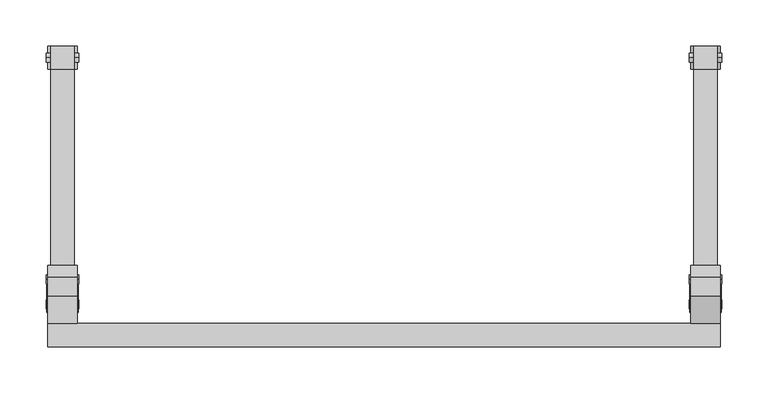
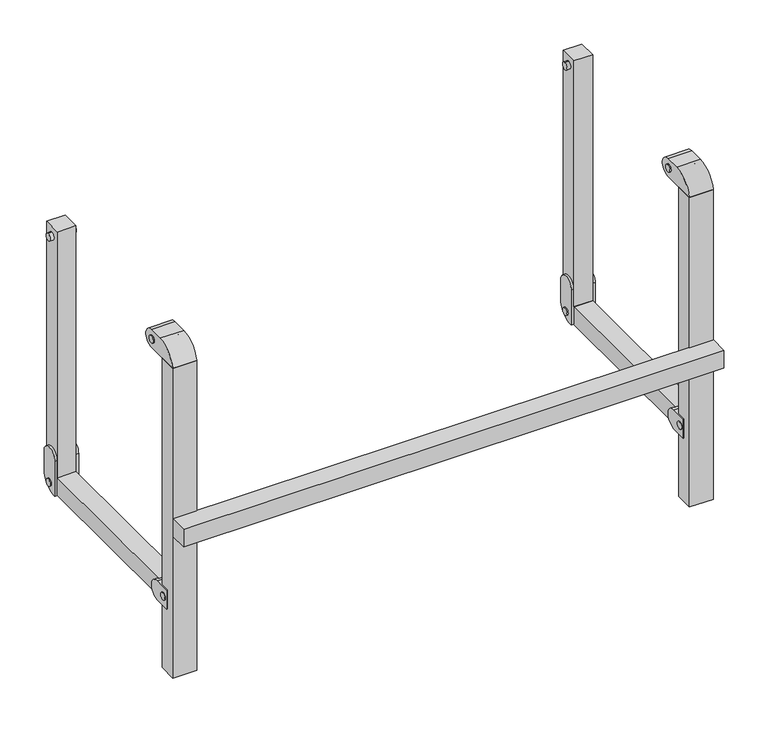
"""IFC4 building model written with IfcOpenShell, lengths in millimetres: proxy geometry, Shower Seat_Metlam_Folding_Support Legs and Handle : 960w x 400d x 480h (ML995_PH)."""

from ifc_helpers import new_model, si_unit, point, frame, frame_2d, origin, place, context, project, spatial, polyline, circle_curve, trimmed, segment, composite_curve, outline, extrude, source, transform, mapped, element, save
from ifc_brep_helpers import plane_surface, cylinder_surface, advanced_brep


def specialty_equipment_5771c5a9(model_context):
    return source(origin(), model_context, "Body", "SolidModel", [
        advanced_brep(
        [(135.1717474, -233.1812972, 448.7603921), (135.1717474, -233.1812972, 458.7603921), (170.1717474, -233.1812972, 448.7603921), (170.1717474, -233.1812972, 458.7603921), (140.1717474, -233.1812972, 448.7603921), (140.1717474, -233.1812972, 458.7603921), (165.1717474, -233.1812972, 458.7603921), (165.1717474, -233.1812972, 448.7603921), (140.1717474, -245.8995044, 466.9886299), (140.1717474, -220.8995044, 466.9886299), (140.1717474, -220.8995044, 117.0617125), (140.1717474, -245.8995044, 117.0617125), (165.1717474, -245.8995044, 466.9886299), (165.1717474, -245.8995044, 117.0617125), (165.1717474, -220.8995044, 117.0617125), (165.1717474, -220.8995044, 466.9886299)],
        [
            (0, 1, circle_curve(frame((135.1717474, -233.1812972, 453.7603921), z_axis=(-1.0, 0.0, 0.0), x_axis=(0.0, 0.0, 1.0)), 5.0)),
            (1, 0, circle_curve(frame((135.1717474, -233.1812972, 453.7603921), z_axis=(-1.0, 0.0, 0.0), x_axis=(0.0, 0.0, 1.0)), 5.0)),
            (2, 3, circle_curve(frame((170.1717474, -233.1812972, 453.7603921), z_axis=(1.0, 0.0, 0.0), x_axis=(0.0, 0.0, 1.0)), 5.0)),
            (3, 2, circle_curve(frame((170.1717474, -233.1812972, 453.7603921), z_axis=(1.0, 0.0, 0.0), x_axis=(0.0, 0.0, 1.0)), 5.0)),
            (0, 4),
            (4, 5, circle_curve(frame((140.1717474, -233.1812972, 453.7603921), z_axis=(-1.0, 0.0, 0.0), x_axis=(0.0, 0.0, 1.0)), 5.0)),
            (5, 1),
            (3, 6),
            (6, 7, circle_curve(frame((165.1717474, -233.1812972, 453.7603921), z_axis=(1.0, 0.0, 0.0), x_axis=(0.0, 0.0, 1.0)), 5.0)),
            (7, 2),
            (5, 4, circle_curve(frame((140.1717474, -233.1812972, 453.7603921), z_axis=(-1.0, 0.0, 0.0), x_axis=(0.0, 0.0, 1.0)), 5.0)),
            (7, 6, circle_curve(frame((165.1717474, -233.1812972, 453.7603921), z_axis=(1.0, 0.0, 0.0), x_axis=(0.0, 0.0, 1.0)), 5.0)),
            (8, 9),
            (9, 10),
            (10, 11),
            (11, 8),
            (12, 13),
            (13, 14),
            (14, 15),
            (15, 12),
            (8, 12),
            (15, 9),
            (14, 10),
            (13, 11),
        ],
        [
            plane_surface(frame((135.1717474, -233.1812972, 458.7603921), z_axis=(-1.0, 0.0, 0.0), x_axis=(0.0, 1.0, 0.0))),
            plane_surface(frame((170.1717474, -233.1812972, 458.7603921), z_axis=(1.0, 0.0, 0.0), x_axis=(0.0, -1.0, 0.0))),
            cylinder_surface(frame((170.1717474, -233.1812972, 453.7603921), z_axis=(-1.0, 0.0, 0.0), x_axis=(0.0, 0.0, 1.0)), 5.0),
            plane_surface(frame((140.1717474, -220.8995044, 466.9886299), z_axis=(-1.0, 0.0, 0.0), x_axis=(0.0, 1.0, 0.0))),
            plane_surface(frame((165.1717474, -220.8995044, 466.9886299), z_axis=(1.0, 0.0, 0.0), x_axis=(0.0, -1.0, 0.0))),
            plane_surface(frame((140.1717474, -245.8995044, 466.9886299), z_axis=(0.0, 0.0, 1.0), x_axis=(1.0, 0.0, 0.0))),
            plane_surface(frame((140.1717474, -220.8995044, 466.9886299), z_axis=(0.0, 1.0, 0.0), x_axis=(1.0, 0.0, 0.0))),
            plane_surface(frame((140.1717474, -220.8995044, 117.0617125), z_axis=(0.0, 0.0, -1.0), x_axis=(1.0, 0.0, 0.0))),
            plane_surface(frame((140.1717474, -245.8995044, 117.0617125), z_axis=(0.0, -1.0, 0.0), x_axis=(1.0, 0.0, 0.0))),
        ],
        [
            (0, [[1, 2]]),
            (1, [[3, 4]]),
            (2, [[-1, 5, 6, 7]]),
            (2, [[-4, 8, 9, 10]]),
            (2, [[-2, -7, 11, -5]]),
            (2, [[-3, -10, 12, -8]]),
            (3, [[13, 14, 15, 16], [-6, -11]]),
            (4, [[17, 18, 19, 20], [-9, -12]]),
            (5, [[-13, 21, -20, 22]]),
            (6, [[-14, -22, -19, 23]]),
            (7, [[-15, -23, -18, 24]]),
            (8, [[-16, -24, -17, -21]]),
        ],
    ),
        advanced_brep(
        [(-524.8282526, -233.1812972, 448.7603921), (-524.8282526, -233.1812972, 458.7603921), (-559.8282526, -233.1812972, 448.7603921), (-559.8282526, -233.1812972, 458.7603921), (-529.8282526, -233.1812972, 458.7603921), (-529.8282526, -233.1812972, 448.7603921), (-554.8282526, -233.1812972, 448.7603921), (-554.8282526, -233.1812972, 458.7603921), (-529.8282526, -245.8995044, 466.9886299), (-529.8282526, -245.8995044, 117.0617125), (-529.8282526, -220.8995044, 117.0617125), (-529.8282526, -220.8995044, 466.9886299), (-554.8282526, -245.8995044, 466.9886299), (-554.8282526, -220.8995044, 466.9886299), (-554.8282526, -220.8995044, 117.0617125), (-554.8282526, -245.8995044, 117.0617125)],
        [
            (0, 1, circle_curve(frame((-524.8282526, -233.1812972, 453.7603921), z_axis=(1.0, 0.0, 0.0), x_axis=(0.0, 0.0, 1.0)), 5.0)),
            (1, 0, circle_curve(frame((-524.8282526, -233.1812972, 453.7603921), z_axis=(1.0, 0.0, 0.0), x_axis=(0.0, 0.0, 1.0)), 5.0)),
            (2, 3, circle_curve(frame((-559.8282526, -233.1812972, 453.7603921), z_axis=(-1.0, 0.0, 0.0), x_axis=(0.0, 0.0, 1.0)), 5.0)),
            (3, 2, circle_curve(frame((-559.8282526, -233.1812972, 453.7603921), z_axis=(-1.0, 0.0, 0.0), x_axis=(0.0, 0.0, 1.0)), 5.0)),
            (1, 4),
            (4, 5, circle_curve(frame((-529.8282526, -233.1812972, 453.7603921), z_axis=(1.0, 0.0, 0.0), x_axis=(0.0, 0.0, 1.0)), 5.0)),
            (5, 0),
            (2, 6),
            (6, 7, circle_curve(frame((-554.8282526, -233.1812972, 453.7603921), z_axis=(-1.0, 0.0, 0.0), x_axis=(0.0, 0.0, 1.0)), 5.0)),
            (7, 3),
            (5, 4, circle_curve(frame((-529.8282526, -233.1812972, 453.7603921), z_axis=(1.0, 0.0, 0.0), x_axis=(0.0, 0.0, 1.0)), 5.0)),
            (7, 6, circle_curve(frame((-554.8282526, -233.1812972, 453.7603921), z_axis=(-1.0, 0.0, 0.0), x_axis=(0.0, 0.0, 1.0)), 5.0)),
            (8, 9),
            (9, 10),
            (10, 11),
            (11, 8),
            (12, 13),
            (13, 14),
            (14, 15),
            (15, 12),
            (11, 13),
            (12, 8),
            (10, 14),
            (9, 15),
        ],
        [
            plane_surface(frame((-524.8282526, -233.1812972, 458.7603921), z_axis=(1.0, 0.0, 0.0), x_axis=(0.0, -1.0, 0.0))),
            plane_surface(frame((-559.8282526, -233.1812972, 458.7603921), z_axis=(-1.0, 0.0, 0.0), x_axis=(0.0, 1.0, 0.0))),
            cylinder_surface(frame((-559.8282526, -233.1812972, 453.7603921), z_axis=(1.0, 0.0, 0.0), x_axis=(0.0, 0.0, 1.0)), 5.0),
            plane_surface(frame((-529.8282526, -245.8995044, 466.9886299), z_axis=(1.0, 0.0, 0.0), x_axis=(0.0, 0.0, -1.0))),
            plane_surface(frame((-554.8282526, -245.8995044, 466.9886299), z_axis=(-1.0, 0.0, 0.0), x_axis=(0.0, 0.0, 1.0))),
            plane_surface(frame((-529.8282526, -220.8995044, 466.9886299), z_axis=(0.0, 0.0, 1.0), x_axis=(-1.0, 0.0, 0.0))),
            plane_surface(frame((-529.8282526, -220.8995044, 117.0617125), z_axis=(0.0, 1.0, 0.0), x_axis=(-1.0, 0.0, 0.0))),
            plane_surface(frame((-529.8282526, -245.8995044, 117.0617125), z_axis=(0.0, 0.0, -1.0), x_axis=(-1.0, 0.0, 0.0))),
            plane_surface(frame((-529.8282526, -245.8995044, 466.9886299), z_axis=(0.0, -1.0, 0.0), x_axis=(-1.0, 0.0, 0.0))),
        ],
        [
            (0, [[1, 2]]),
            (1, [[3, 4]]),
            (2, [[-2, 5, 6, 7]]),
            (2, [[-3, 8, 9, 10]]),
            (2, [[-1, -7, 11, -5]]),
            (2, [[-4, -10, 12, -8]]),
            (3, [[13, 14, 15, 16], [-6, -11]]),
            (4, [[17, 18, 19, 20], [-9, -12]]),
            (5, [[-16, 21, -17, 22]]),
            (6, [[-15, 23, -18, -21]]),
            (7, [[-14, 24, -19, -23]]),
            (8, [[-13, -22, -20, -24]]),
        ],
    ),
        advanced_brep(
        [(136.6717474, -220.8995044, 115.767673), (136.6717474, -244.6671774, 92.0), (136.6717474, -245.8995044, 92.0), (136.6717474, -245.8995044, 141.7921181), (136.6717474, -220.8995044, 141.7921181), (136.6717474, -233.1812972, 109.5308562), (136.6717474, -233.1812972, 99.5308562), (168.6717474, -220.8995044, 115.767673), (168.6717474, -220.8995044, 141.7921181), (168.6717474, -245.8995044, 141.7921181), (168.6717474, -245.8995044, 92.0), (168.6717474, -244.6671774, 92.0), (168.6717474, -233.1812972, 99.5308562), (168.6717474, -233.1812972, 109.5308562), (135.1717474, -233.1812972, 99.5308562), (135.1717474, -233.1812972, 109.5308562), (170.1717474, -233.1812972, 99.5308562), (170.1717474, -233.1812972, 109.5308562)],
        [
            (0, 1, circle_curve(frame((136.6717474, -244.6671774, 115.767673), z_axis=(-1.0, 0.0, 0.0), x_axis=(0.0, 0.0, 1.0)), 23.767673)),
            (1, 2),
            (2, 3),
            (3, 4, circle_curve(frame((136.6717474, -233.3995044, 141.7921181), z_axis=(-1.0, 0.0, 0.0), x_axis=(0.0, 0.0, 1.0)), 12.5)),
            (4, 0),
            (5, 6, circle_curve(frame((136.6717474, -233.1812972, 104.5308562), z_axis=(1.0, 0.0, 0.0), x_axis=(0.0, 0.0, 1.0)), 5.0)),
            (6, 5, circle_curve(frame((136.6717474, -233.1812972, 104.5308562), z_axis=(1.0, 0.0, 0.0), x_axis=(0.0, 0.0, 1.0)), 5.0)),
            (7, 8),
            (8, 9, circle_curve(frame((168.6717474, -233.3995044, 141.7921181), z_axis=(1.0, 0.0, 0.0), x_axis=(0.0, 0.0, 1.0)), 12.5)),
            (9, 10),
            (10, 11),
            (11, 7, circle_curve(frame((168.6717474, -244.6671774, 115.767673), z_axis=(1.0, 0.0, 0.0), x_axis=(0.0, 0.0, 1.0)), 23.767673)),
            (12, 13, circle_curve(frame((168.6717474, -233.1812972, 104.5308562), z_axis=(-1.0, 0.0, 0.0), x_axis=(0.0, 0.0, 1.0)), 5.0)),
            (13, 12, circle_curve(frame((168.6717474, -233.1812972, 104.5308562), z_axis=(-1.0, 0.0, 0.0), x_axis=(0.0, 0.0, 1.0)), 5.0)),
            (0, 7),
            (11, 1),
            (10, 2),
            (9, 3),
            (8, 4),
            (14, 15, circle_curve(frame((135.1717474, -233.1812972, 104.5308562), z_axis=(-1.0, 0.0, 0.0), x_axis=(0.0, 0.0, 1.0)), 5.0)),
            (15, 14, circle_curve(frame((135.1717474, -233.1812972, 104.5308562), z_axis=(-1.0, 0.0, 0.0), x_axis=(0.0, 0.0, 1.0)), 5.0)),
            (16, 17, circle_curve(frame((170.1717474, -233.1812972, 104.5308562), z_axis=(1.0, 0.0, 0.0), x_axis=(0.0, 0.0, 1.0)), 5.0)),
            (17, 16, circle_curve(frame((170.1717474, -233.1812972, 104.5308562), z_axis=(1.0, 0.0, 0.0), x_axis=(0.0, 0.0, 1.0)), 5.0)),
            (14, 6),
            (5, 15),
            (17, 13),
            (12, 16),
        ],
        [
            plane_surface(frame((136.6717474, -244.6671774, 139.535346), z_axis=(-1.0, 0.0, 0.0), x_axis=(0.0, 1.0, 0.0))),
            plane_surface(frame((168.6717474, -244.6671774, 139.535346), z_axis=(1.0, 0.0, 0.0), x_axis=(0.0, -1.0, 0.0))),
            cylinder_surface(frame((168.6717474, -244.6671774, 115.767673), z_axis=(-1.0, 0.0, 0.0), x_axis=(0.0, 0.0, 1.0)), 23.767673),
            plane_surface(frame((136.6717474, -244.6671774, 92.0), z_axis=(0.0, 0.0, -1.0), x_axis=(1.0, 0.0, 0.0))),
            plane_surface(frame((136.6717474, -245.8995044, 92.0), z_axis=(0.0, -1.0, 0.0), x_axis=(1.0, 0.0, 0.0))),
            cylinder_surface(frame((168.6717474, -233.3995044, 141.7921181), z_axis=(-1.0, 0.0, 0.0), x_axis=(0.0, 0.0, 1.0)), 12.5),
            plane_surface(frame((136.6717474, -220.8995044, 141.7921181), z_axis=(0.0, 1.0, -1.7515047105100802e-12), x_axis=(1.0, 0.0, 0.0))),
            plane_surface(frame((135.1717474, -233.1812972, 109.5308562), z_axis=(-1.0, 0.0, 0.0), x_axis=(0.0, 1.0, 0.0))),
            plane_surface(frame((170.1717474, -233.1812972, 109.5308562), z_axis=(1.0, 0.0, 0.0), x_axis=(0.0, -1.0, 0.0))),
            cylinder_surface(frame((170.1717474, -233.1812972, 104.5308562), z_axis=(-1.0, 0.0, 0.0), x_axis=(0.0, 0.0, 1.0)), 5.0),
        ],
        [
            (0, [[1, 2, 3, 4, 5], [6, 7]]),
            (1, [[8, 9, 10, 11, 12], [13, 14]]),
            (2, [[-1, 15, -12, 16]]),
            (3, [[-2, -16, -11, 17]]),
            (4, [[-3, -17, -10, 18]]),
            (5, [[-4, -18, -9, 19]]),
            (6, [[-5, -19, -8, -15]]),
            (7, [[20, 21]]),
            (8, [[22, 23]]),
            (9, [[-20, 24, -6, 25]]),
            (9, [[-23, 26, -13, 27]]),
            (9, [[-21, -25, -7, -24]]),
            (9, [[-22, -27, -14, -26]]),
        ],
    ),
        advanced_brep(
        [(-526.3282526, -520.9976949, 440.5321543), (-526.3282526, -495.9976949, 440.5321543), (-558.3282526, -495.9976949, 440.5321543), (-558.3282526, -520.9976949, 440.5321543), (-526.3282526, -520.9976949, 0.0), (-558.3282526, -520.9976949, 0.0), (-558.3282526, -495.9976949, 0.0), (-526.3282526, -495.9976949, 0.0), (-526.3282526, -495.9976949, 91.0308562), (-526.3282526, -508.8463363, 91.0308562), (-526.3282526, -508.8463363, 118.0308562), (-526.3282526, -495.9976949, 118.0308562), (-558.3282526, -495.9976949, 118.0308562), (-558.3282526, -495.9976949, 91.0308562), (-558.3282526, -508.8463363, 118.0308562), (-558.3282526, -508.8463363, 91.0308562), (-529.8282526, -245.8995044, 92.0), (-529.8282526, -245.8995044, 117.0617125), (-529.8282526, -481.5618033, 117.0617125), (-529.8282526, -481.5618033, 92.0), (-554.8282526, -245.8995044, 117.0617125), (-554.8282526, -245.8995044, 92.0), (-554.8282526, -481.5618033, 92.0), (-554.8282526, -481.5618033, 117.0617125), (-525.3282526, -508.8463363, 118.0308562), (-525.3282526, -508.8463363, 91.0308562), (-525.3282526, -486.5845159, 91.0308562), (-525.3282526, -486.5845159, 118.0308562), (-525.3282526, -500.3463363, 99.5308562), (-525.3282526, -500.3463363, 109.5308562), (-559.3282526, -508.8463363, 118.0308562), (-559.3282526, -486.5845159, 118.0308562), (-559.3282526, -486.5845159, 91.0308562), (-559.3282526, -508.8463363, 91.0308562), (-559.3282526, -500.3463363, 109.5308562), (-559.3282526, -500.3463363, 99.5308562), (-524.8282526, -500.3463363, 99.5308562), (-524.8282526, -500.3463363, 109.5308562), (-559.8282526, -500.3463363, 99.5308562), (-559.8282526, -500.3463363, 109.5308562)],
        [
            (0, 1),
            (1, 2),
            (2, 3),
            (3, 0),
            (4, 5),
            (5, 6),
            (6, 7),
            (7, 4),
            (0, 4),
            (7, 8),
            (8, 9),
            (9, 10),
            (10, 11),
            (11, 1),
            (11, 12),
            (12, 2),
            (6, 13),
            (13, 8),
            (12, 14),
            (14, 15),
            (15, 13),
            (5, 3),
            (16, 17),
            (17, 18),
            (18, 19, circle_curve(frame((-529.8282526, -486.5845159, 104.5308562), z_axis=(-1.0, 0.0, 0.0), x_axis=(0.0, 0.0, 1.0)), 13.5)),
            (19, 16),
            (20, 21),
            (21, 22),
            (22, 23, circle_curve(frame((-554.8282526, -486.5845159, 104.5308562), z_axis=(1.0, 0.0, 0.0), x_axis=(0.0, 0.0, 1.0)), 13.5)),
            (23, 20),
            (21, 16),
            (19, 22),
            (17, 20),
            (23, 18),
            (24, 25),
            (25, 26),
            (26, 27, circle_curve(frame((-525.3282526, -486.5845159, 104.5308562), z_axis=(1.0, 0.0, 0.0), x_axis=(0.0, 0.0, 1.0)), 13.5)),
            (27, 24),
            (28, 29, circle_curve(frame((-525.3282526, -500.3463363, 104.5308562), z_axis=(-1.0, 0.0, 0.0), x_axis=(0.0, 0.0, 1.0)), 5.0)),
            (29, 28, circle_curve(frame((-525.3282526, -500.3463363, 104.5308562), z_axis=(-1.0, 0.0, 0.0), x_axis=(0.0, 0.0, 1.0)), 5.0)),
            (30, 31),
            (31, 32, circle_curve(frame((-559.3282526, -486.5845159, 104.5308562), z_axis=(-1.0, 0.0, 0.0), x_axis=(0.0, 0.0, 1.0)), 13.5)),
            (32, 33),
            (33, 30),
            (34, 35, circle_curve(frame((-559.3282526, -500.3463363, 104.5308562), z_axis=(1.0, 0.0, 0.0), x_axis=(0.0, 0.0, 1.0)), 5.0)),
            (35, 34, circle_curve(frame((-559.3282526, -500.3463363, 104.5308562), z_axis=(1.0, 0.0, 0.0), x_axis=(0.0, 0.0, 1.0)), 5.0)),
            (24, 10),
            (9, 25),
            (33, 15),
            (14, 30),
            (32, 26),
            (31, 27),
            (36, 37, circle_curve(frame((-524.8282526, -500.3463363, 104.5308562), z_axis=(1.0, 0.0, 0.0), x_axis=(0.0, 0.0, 1.0)), 5.0)),
            (37, 36, circle_curve(frame((-524.8282526, -500.3463363, 104.5308562), z_axis=(1.0, 0.0, 0.0), x_axis=(0.0, 0.0, 1.0)), 5.0)),
            (38, 39, circle_curve(frame((-559.8282526, -500.3463363, 104.5308562), z_axis=(-1.0, 0.0, 0.0), x_axis=(0.0, 0.0, 1.0)), 5.0)),
            (39, 38, circle_curve(frame((-559.8282526, -500.3463363, 104.5308562), z_axis=(-1.0, 0.0, 0.0), x_axis=(0.0, 0.0, 1.0)), 5.0)),
            (37, 29),
            (28, 36),
            (38, 35),
            (34, 39),
        ],
        [
            plane_surface(frame((-526.3282526, -520.9976949, 440.5321543), z_axis=(0.0, 0.0, 1.0), x_axis=(0.0, 1.0, 0.0))),
            plane_surface(frame((-526.3282526, -520.9976949, 0.0), z_axis=(0.0, 0.0, -1.0), x_axis=(0.0, -1.0, 0.0))),
            plane_surface(frame((-526.3282526, -520.9976949, 440.5321543), z_axis=(1.0, 0.0, 0.0), x_axis=(0.0, 0.0, -1.0))),
            plane_surface(frame((-526.3282526, -495.9976949, 440.5321543), z_axis=(0.0, 1.0, 0.0), x_axis=(0.0, 0.0, -1.0))),
            plane_surface(frame((-558.3282526, -495.9976949, 440.5321543), z_axis=(-1.0, 0.0, 0.0), x_axis=(0.0, 0.0, -1.0))),
            plane_surface(frame((-558.3282526, -520.9976949, 440.5321543), z_axis=(0.0, -1.0, 0.0), x_axis=(0.0, 0.0, -1.0))),
            plane_surface(frame((-529.8282526, -495.9976949, 117.0617125), z_axis=(1.0, 0.0, 0.0), x_axis=(0.0, -1.0, 0.0))),
            plane_surface(frame((-554.8282526, -495.9976949, 117.0617125), z_axis=(-1.0, 0.0, 0.0), x_axis=(0.0, 1.0, 0.0))),
            plane_surface(frame((-529.8282526, -495.9976949, 92.0), z_axis=(0.0, 0.0, -1.0), x_axis=(-1.0, 0.0, 0.0))),
            plane_surface(frame((-529.8282526, -245.8995044, 117.0617125), z_axis=(0.0, 0.0, 1.0), x_axis=(-1.0, 0.0, 0.0))),
            plane_surface(frame((-529.8282526, -245.8995044, 92.0), z_axis=(0.0, 1.0, 0.0), x_axis=(-1.0, 0.0, 0.0))),
            plane_surface(frame((-525.3282526, -508.8463363, 91.0308562), z_axis=(1.0, 0.0, 0.0), x_axis=(0.0, 0.0, -1.0))),
            plane_surface(frame((-559.3282526, -508.8463363, 91.0308562), z_axis=(-1.0, 0.0, 0.0), x_axis=(0.0, 0.0, 1.0))),
            plane_surface(frame((-525.3282526, -508.8463363, 118.0308562), z_axis=(0.0, -1.0, 0.0), x_axis=(-1.0, 0.0, 0.0))),
            plane_surface(frame((-525.3282526, -508.8463363, 91.0308562), z_axis=(0.0, 0.0, -1.0), x_axis=(-1.0, 0.0, 0.0))),
            cylinder_surface(frame((-559.3282526, -486.5845159, 104.5308562), z_axis=(1.0, 0.0, 0.0), x_axis=(0.0, 0.0, 1.0)), 13.5),
            plane_surface(frame((-525.3282526, -486.5845159, 118.0308562), z_axis=(0.0, 0.0, 1.0), x_axis=(-1.0, 0.0, 0.0))),
            plane_surface(frame((-524.8282526, -500.3463363, 109.5308562), z_axis=(1.0, 0.0, 0.0), x_axis=(0.0, -1.0, 0.0))),
            plane_surface(frame((-559.8282526, -500.3463363, 109.5308562), z_axis=(-1.0, 0.0, 0.0), x_axis=(0.0, 1.0, 0.0))),
            cylinder_surface(frame((-559.8282526, -500.3463363, 104.5308562), z_axis=(1.0, 0.0, 0.0), x_axis=(0.0, 0.0, 1.0)), 5.0),
        ],
        [
            (0, [[1, 2, 3, 4]]),
            (1, [[5, 6, 7, 8]]),
            (2, [[-1, 9, -8, 10, 11, 12, 13, 14]]),
            (3, [[-2, -14, 15, 16]]),
            (3, [[-7, 17, 18, -10]]),
            (4, [[-3, -16, 19, 20, 21, -17, -6, 22]]),
            (5, [[-4, -22, -5, -9]]),
            (6, [[23, 24, 25, 26]]),
            (7, [[27, 28, 29, 30]]),
            (8, [[31, -26, 32, -28]]),
            (9, [[33, -30, 34, -24]]),
            (10, [[-23, -31, -27, -33]]),
            (11, [[35, 36, 37, 38], [39, 40]]),
            (12, [[41, 42, 43, 44], [45, 46]]),
            (13, [[-35, 47, -12, 48]]),
            (13, [[-44, 49, -20, 50]]),
            (14, [[-36, -48, -11, -18, -21, -49, -43, 51]]),
            (15, [[-37, -51, -42, 52], [-25, -34, -29, -32]]),
            (16, [[-38, -52, -41, -50, -19, -15, -13, -47]]),
            (17, [[53, 54]]),
            (18, [[55, 56]]),
            (19, [[-54, 57, -39, 58]]),
            (19, [[-55, 59, -45, 60]]),
            (19, [[-53, -58, -40, -57]]),
            (19, [[-56, -60, -46, -59]]),
        ],
    ),
        advanced_brep(
        [(136.6717474, -520.9976949, 440.5321543), (168.6717474, -520.9976949, 440.5321543), (168.6717474, -495.9976949, 440.5321543), (136.6717474, -495.9976949, 440.5321543), (136.6717474, -520.9976949, 0.0), (136.6717474, -495.9976949, 0.0), (168.6717474, -495.9976949, 0.0), (168.6717474, -520.9976949, 0.0), (168.6717474, -495.9976949, 91.0308562), (168.6717474, -508.8463363, 91.0308562), (168.6717474, -508.8463363, 118.0308562), (168.6717474, -495.9976949, 118.0308562), (136.6717474, -495.9976949, 118.0308562), (136.6717474, -495.9976949, 91.0308562), (136.6717474, -508.8463363, 118.0308562), (136.6717474, -508.8463363, 91.0308562), (135.6717474, -508.8463363, 118.0308562), (135.6717474, -486.5845159, 118.0308562), (135.6717474, -486.5845159, 91.0308562), (135.6717474, -508.8463363, 91.0308562), (135.6717474, -500.3463363, 109.5308562), (135.6717474, -500.3463363, 99.5308562), (169.6717474, -508.8463363, 118.0308562), (169.6717474, -508.8463363, 91.0308562), (169.6717474, -486.5845159, 91.0308562), (169.6717474, -486.5845159, 118.0308562), (169.6717474, -500.3463363, 99.5308562), (169.6717474, -500.3463363, 109.5308562), (140.1717474, -481.5618033, 117.0617125), (140.1717474, -481.5618033, 92.0), (165.1717474, -481.5618033, 92.0), (165.1717474, -481.5618033, 117.0617125), (140.1717474, -245.8995044, 117.0617125), (140.1717474, -245.8995044, 92.0), (165.1717474, -245.8995044, 92.0), (165.1717474, -245.8995044, 117.0617125), (135.1717474, -500.3463363, 99.5308562), (135.1717474, -500.3463363, 109.5308562), (170.1717474, -500.3463363, 99.5308562), (170.1717474, -500.3463363, 109.5308562)],
        [
            (0, 1),
            (1, 2),
            (2, 3),
            (3, 0),
            (4, 5),
            (5, 6),
            (6, 7),
            (7, 4),
            (0, 4),
            (7, 1),
            (6, 8),
            (8, 9),
            (9, 10),
            (10, 11),
            (11, 2),
            (11, 12),
            (12, 3),
            (5, 13),
            (13, 8),
            (12, 14),
            (14, 15),
            (15, 13),
            (16, 17),
            (17, 18, circle_curve(frame((135.6717474, -486.5845159, 104.5308562), z_axis=(-1.0, 0.0, 0.0), x_axis=(0.0, 0.0, 1.0)), 13.5)),
            (18, 19),
            (19, 16),
            (20, 21, circle_curve(frame((135.6717474, -500.3463363, 104.5308562), z_axis=(1.0, 0.0, 0.0), x_axis=(0.0, 0.0, 1.0)), 5.0)),
            (21, 20, circle_curve(frame((135.6717474, -500.3463363, 104.5308562), z_axis=(1.0, 0.0, 0.0), x_axis=(0.0, 0.0, 1.0)), 5.0)),
            (22, 23),
            (23, 24),
            (24, 25, circle_curve(frame((169.6717474, -486.5845159, 104.5308562), z_axis=(1.0, 0.0, 0.0), x_axis=(0.0, 0.0, 1.0)), 13.5)),
            (25, 22),
            (26, 27, circle_curve(frame((169.6717474, -500.3463363, 104.5308562), z_axis=(-1.0, 0.0, 0.0), x_axis=(0.0, 0.0, 1.0)), 5.0)),
            (27, 26, circle_curve(frame((169.6717474, -500.3463363, 104.5308562), z_axis=(-1.0, 0.0, 0.0), x_axis=(0.0, 0.0, 1.0)), 5.0)),
            (19, 15),
            (14, 16),
            (22, 10),
            (9, 23),
            (18, 24),
            (17, 25),
            (28, 29, circle_curve(frame((140.1717474, -486.5845159, 104.5308562), z_axis=(-1.0, 0.0, 0.0), x_axis=(0.0, 0.0, 1.0)), 13.5)),
            (29, 30),
            (30, 31, circle_curve(frame((165.1717474, -486.5845159, 104.5308562), z_axis=(1.0, 0.0, 0.0), x_axis=(0.0, 0.0, 1.0)), 13.5)),
            (31, 28),
            (32, 33),
            (33, 29),
            (28, 32),
            (34, 35),
            (35, 31),
            (30, 34),
            (33, 34),
            (35, 32),
            (36, 37, circle_curve(frame((135.1717474, -500.3463363, 104.5308562), z_axis=(-1.0, 0.0, 0.0), x_axis=(0.0, 0.0, 1.0)), 5.0)),
            (37, 36, circle_curve(frame((135.1717474, -500.3463363, 104.5308562), z_axis=(-1.0, 0.0, 0.0), x_axis=(0.0, 0.0, 1.0)), 5.0)),
            (38, 39, circle_curve(frame((170.1717474, -500.3463363, 104.5308562), z_axis=(1.0, 0.0, 0.0), x_axis=(0.0, 0.0, 1.0)), 5.0)),
            (39, 38, circle_curve(frame((170.1717474, -500.3463363, 104.5308562), z_axis=(1.0, 0.0, 0.0), x_axis=(0.0, 0.0, 1.0)), 5.0)),
            (36, 21),
            (20, 37),
            (39, 27),
            (26, 38),
        ],
        [
            plane_surface(frame((-526.3282526, -520.9976949, 440.5321543), z_axis=(0.0, 0.0, 1.0), x_axis=(0.0, 1.0, 0.0))),
            plane_surface(frame((-526.3282526, -520.9976949, 0.0), z_axis=(0.0, 0.0, -1.0), x_axis=(0.0, -1.0, 0.0))),
            plane_surface(frame((136.6717474, -520.9976949, 440.5321543), z_axis=(0.0, -1.0, 0.0), x_axis=(0.0, 0.0, -1.0))),
            plane_surface(frame((168.6717474, -520.9976949, 440.5321543), z_axis=(1.0, 0.0, 0.0), x_axis=(0.0, 0.0, -1.0))),
            plane_surface(frame((168.6717474, -495.9976949, 440.5321543), z_axis=(0.0, 1.0, 0.0), x_axis=(0.0, 0.0, -1.0))),
            plane_surface(frame((136.6717474, -495.9976949, 440.5321543), z_axis=(-1.0, 0.0, 0.0), x_axis=(0.0, 0.0, -1.0))),
            plane_surface(frame((135.6717474, -486.5845159, 118.0308562), z_axis=(-1.0, 0.0, 0.0), x_axis=(0.0, 1.0, 0.0))),
            plane_surface(frame((169.6717474, -486.5845159, 118.0308562), z_axis=(1.0, 0.0, 0.0), x_axis=(0.0, -1.0, 0.0))),
            plane_surface(frame((135.6717474, -508.8463363, 91.0308562), z_axis=(0.0, -1.0, 0.0), x_axis=(1.0, 0.0, 0.0))),
            plane_surface(frame((135.6717474, -486.5845159, 91.0308562), z_axis=(0.0, 0.0, -1.0), x_axis=(1.0, 0.0, 0.0))),
            cylinder_surface(frame((169.6717474, -486.5845159, 104.5308562), z_axis=(-1.0, 0.0, 0.0), x_axis=(0.0, 0.0, 1.0)), 13.5),
            plane_surface(frame((135.6717474, -508.8463363, 118.0308562), z_axis=(0.0, 0.0, 1.0), x_axis=(1.0, 0.0, 0.0))),
            plane_surface(frame((140.1717474, -245.8995044, 117.0617125), z_axis=(-1.0, 0.0, 0.0), x_axis=(0.0, 0.0, -1.0))),
            plane_surface(frame((165.1717474, -245.8995044, 117.0617125), z_axis=(1.0, 0.0, 0.0), x_axis=(0.0, 0.0, 1.0))),
            plane_surface(frame((140.1717474, -245.8995044, 92.0), z_axis=(0.0, 0.0, -1.0), x_axis=(1.0, 0.0, 0.0))),
            plane_surface(frame((140.1717474, -495.9976949, 117.0617125), z_axis=(0.0, 0.0, 1.0), x_axis=(1.0, 0.0, 0.0))),
            plane_surface(frame((140.1717474, -245.8995044, 117.0617125), z_axis=(0.0, 1.0, 0.0), x_axis=(1.0, 0.0, 0.0))),
            plane_surface(frame((135.1717474, -500.3463363, 109.5308562), z_axis=(-1.0, 0.0, 0.0), x_axis=(0.0, 1.0, 0.0))),
            plane_surface(frame((170.1717474, -500.3463363, 109.5308562), z_axis=(1.0, 0.0, 0.0), x_axis=(0.0, -1.0, 0.0))),
            cylinder_surface(frame((170.1717474, -500.3463363, 104.5308562), z_axis=(-1.0, 0.0, 0.0), x_axis=(0.0, 0.0, 1.0)), 5.0),
        ],
        [
            (0, [[1, 2, 3, 4]]),
            (1, [[5, 6, 7, 8]]),
            (2, [[-1, 9, -8, 10]]),
            (3, [[-2, -10, -7, 11, 12, 13, 14, 15]]),
            (4, [[-3, -15, 16, 17]]),
            (4, [[-6, 18, 19, -11]]),
            (5, [[-4, -17, 20, 21, 22, -18, -5, -9]]),
            (6, [[23, 24, 25, 26], [27, 28]]),
            (7, [[29, 30, 31, 32], [33, 34]]),
            (8, [[-26, 35, -21, 36]]),
            (8, [[-29, 37, -13, 38]]),
            (9, [[-25, 39, -30, -38, -12, -19, -22, -35]]),
            (10, [[-24, 40, -31, -39], [41, 42, 43, 44]]),
            (11, [[-23, -36, -20, -16, -14, -37, -32, -40]]),
            (12, [[45, 46, -41, 47]]),
            (13, [[48, 49, -43, 50]]),
            (14, [[51, -50, -42, -46]]),
            (15, [[52, -47, -44, -49]]),
            (16, [[-45, -52, -48, -51]]),
            (17, [[53, 54]]),
            (18, [[55, 56]]),
            (19, [[-53, 57, -27, 58]]),
            (19, [[-56, 59, -33, 60]]),
            (19, [[-54, -58, -28, -57]]),
            (19, [[-55, -60, -34, -59]]),
        ],
    ),
        extrude(outline(composite_curve([segment(trimmed(circle_curve(frame_2d((-233.1812972, 104.5308562)), 5.0), [point((-233.1812972, 99.5308562))], [point((-233.1812972, 109.5308562))], False, "CARTESIAN"), True, "CONTINUOUS"), segment(trimmed(circle_curve(frame_2d((-233.1812972, 104.5308562)), 5.0), [point((-233.1812972, 109.5308562))], [point((-233.1812972, 99.5308562))], False, "CARTESIAN"), True, "CONTINUOUS")], self_intersect=False)), frame((-559.8282526, 0.0, 0.0), z_axis=(1.0, 0.0, 0.0), x_axis=(0.0, 1.0, 0.0)), (0.0, 0.0, 1.0), 35.0),
        extrude(outline(composite_curve([segment(trimmed(circle_curve(frame_2d((-244.6671774, 115.767673)), 23.767673), [point((-220.8995044, 115.767673))], [point((-244.6671774, 92.0))], False, "CARTESIAN"), True, "CONTINUOUS"), segment(polyline([(-244.6671774, 92.0), (-245.8995044, 92.0), (-245.8995044, 141.7921181)]), True, "CONTINUOUS"), segment(trimmed(circle_curve(frame_2d((-233.3995044, 141.7921181)), 12.5), [point((-245.8995044, 141.7921181))], [point((-220.8995044, 141.7921181))], False, "CARTESIAN"), True, "CONTINUOUS"), segment(polyline([(-220.8995044, 141.7921181), (-220.8995044, 115.767673)]), True, "CONTINUOUS")], self_intersect=False)), frame((-558.3282526, 0.0, 0.0), z_axis=(1.0, 0.0, 0.0), x_axis=(0.0, 1.0, 0.0)), (0.0, 0.0, 1.0), 32.0),
        extrude(outline(polyline([(-558.3282526, -520.9976949), (168.6717474, -520.9976949), (168.6717474, -545.9995044), (-558.3282526, -545.9995044), (-558.3282526, -520.9976949)])), frame((0.0, 0.0, 202.0), z_axis=(0.0, 0.0, 1.0), x_axis=(1.0, 0.0, 0.0)), (0.0, 0.0, 1.0), 25.0),
        advanced_brep(
        [(135.1717474, -473.1812972, 448.7603921), (135.1717474, -473.1812972, 458.7603921), (170.1717474, -473.1812972, 448.7603921), (170.1717474, -473.1812972, 458.7603921), (136.6717474, -473.1812972, 448.7603921), (136.6717474, -473.1812972, 458.7603921), (168.6717474, -473.1812972, 458.7603921), (168.6717474, -473.1812972, 448.7603921), (136.6717474, -470.598776, 465.5321543), (136.6717474, -470.598776, 440.5321543), (136.6717474, -520.9976949, 440.5321543), (136.6717474, -490.9976949, 465.5321543), (168.6717474, -470.598776, 465.5321543), (168.6717474, -490.9976949, 465.5321543), (168.6717474, -520.9976949, 440.5321543), (168.6717474, -470.598776, 440.5321543)],
        [
            (0, 1, circle_curve(frame((135.1717474, -473.1812972, 453.7603921), z_axis=(-1.0, 0.0, 0.0), x_axis=(0.0, 0.0, 1.0)), 5.0)),
            (1, 0, circle_curve(frame((135.1717474, -473.1812972, 453.7603921), z_axis=(-1.0, 0.0, 0.0), x_axis=(0.0, 0.0, 1.0)), 5.0)),
            (2, 3, circle_curve(frame((170.1717474, -473.1812972, 453.7603921), z_axis=(1.0, 0.0, 0.0), x_axis=(0.0, 0.0, 1.0)), 5.0)),
            (3, 2, circle_curve(frame((170.1717474, -473.1812972, 453.7603921), z_axis=(1.0, 0.0, 0.0), x_axis=(0.0, 0.0, 1.0)), 5.0)),
            (0, 4),
            (4, 5, circle_curve(frame((136.6717474, -473.1812972, 453.7603921), z_axis=(-1.0, 0.0, 0.0), x_axis=(0.0, 0.0, 1.0)), 5.0)),
            (5, 1),
            (3, 6),
            (6, 7, circle_curve(frame((168.6717474, -473.1812972, 453.7603921), z_axis=(1.0, 0.0, 0.0), x_axis=(0.0, 0.0, 1.0)), 5.0)),
            (7, 2),
            (5, 4, circle_curve(frame((136.6717474, -473.1812972, 453.7603921), z_axis=(-1.0, 0.0, 0.0), x_axis=(0.0, 0.0, 1.0)), 5.0)),
            (7, 6, circle_curve(frame((168.6717474, -473.1812972, 453.7603921), z_axis=(1.0, 0.0, 0.0), x_axis=(0.0, 0.0, 1.0)), 5.0)),
            (8, 9, circle_curve(frame((136.6717474, -470.598776, 453.0321543), z_axis=(-1.0, 0.0, 0.0), x_axis=(0.0, 0.0, 1.0)), 12.5)),
            (9, 10),
            (10, 11, circle_curve(frame((136.6717474, -490.9976949, 435.0321543), z_axis=(-1.0, 0.0, 0.0), x_axis=(0.0, 0.0, 1.0)), 30.5)),
            (11, 8),
            (12, 13),
            (13, 14, circle_curve(frame((168.6717474, -490.9976949, 435.0321543), z_axis=(1.0, 0.0, 0.0), x_axis=(0.0, 0.0, 1.0)), 30.5)),
            (14, 15),
            (15, 12, circle_curve(frame((168.6717474, -470.598776, 453.0321543), z_axis=(1.0, 0.0, 0.0), x_axis=(0.0, 0.0, 1.0)), 12.5)),
            (8, 12),
            (15, 9),
            (14, 10),
            (11, 13),
        ],
        [
            plane_surface(frame((135.1717474, -473.1812972, 458.7603921), z_axis=(-1.0, 0.0, 0.0), x_axis=(0.0, 1.0, 0.0))),
            plane_surface(frame((170.1717474, -473.1812972, 458.7603921), z_axis=(1.0, 0.0, 0.0), x_axis=(0.0, -1.0, 0.0))),
            cylinder_surface(frame((170.1717474, -473.1812972, 453.7603921), z_axis=(-1.0, 0.0, 0.0), x_axis=(0.0, 0.0, 1.0)), 5.0),
            plane_surface(frame((136.6717474, -470.598776, 465.5321543), z_axis=(-1.0, 0.0, 0.0), x_axis=(0.0, 1.0, 0.0))),
            plane_surface(frame((168.6717474, -470.598776, 465.5321543), z_axis=(1.0, 0.0, 0.0), x_axis=(0.0, -1.0, 0.0))),
            cylinder_surface(frame((168.6717474, -470.598776, 453.0321543), z_axis=(-1.0, 0.0, 0.0), x_axis=(0.0, 0.0, 1.0)), 12.5),
            plane_surface(frame((136.6717474, -470.598776, 440.5321543), z_axis=(0.0, 0.0, -1.0), x_axis=(1.0, 0.0, 0.0))),
            plane_surface(frame((136.6717474, -490.9976949, 465.5321543), z_axis=(0.0, 0.0, 1.0), x_axis=(1.0, 0.0, 0.0))),
            cylinder_surface(frame((168.6717474, -490.9976949, 435.0321543), z_axis=(-1.0, 0.0, 0.0), x_axis=(0.0, 0.0, 1.0)), 30.5),
        ],
        [
            (0, [[1, 2]]),
            (1, [[3, 4]]),
            (2, [[-1, 5, 6, 7]]),
            (2, [[-4, 8, 9, 10]]),
            (2, [[-2, -7, 11, -5]]),
            (2, [[-3, -10, 12, -8]]),
            (3, [[13, 14, 15, 16], [-6, -11]]),
            (4, [[17, 18, 19, 20], [-9, -12]]),
            (5, [[-13, 21, -20, 22]]),
            (6, [[-14, -22, -19, 23]]),
            (7, [[-16, 24, -17, -21]]),
            (8, [[-15, -23, -18, -24]]),
        ],
    ),
        advanced_brep(
        [(-524.8282526, -473.1812972, 448.7603921), (-524.8282526, -473.1812972, 458.7603921), (-559.8282526, -473.1812972, 448.7603921), (-559.8282526, -473.1812972, 458.7603921), (-526.3282526, -473.1812972, 458.7603921), (-526.3282526, -473.1812972, 448.7603921), (-558.3282526, -473.1812972, 448.7603921), (-558.3282526, -473.1812972, 458.7603921), (-526.3282526, -470.598776, 465.5321543), (-526.3282526, -490.9976949, 465.5321543), (-526.3282526, -520.9976949, 440.5321543), (-526.3282526, -470.598776, 440.5321543), (-558.3282526, -470.598776, 465.5321543), (-558.3282526, -470.598776, 440.5321543), (-558.3282526, -520.9976949, 440.5321543), (-558.3282526, -490.9976949, 465.5321543)],
        [
            (0, 1, circle_curve(frame((-524.8282526, -473.1812972, 453.7603921), z_axis=(1.0, 0.0, 0.0), x_axis=(0.0, 0.0, 1.0)), 5.0)),
            (1, 0, circle_curve(frame((-524.8282526, -473.1812972, 453.7603921), z_axis=(1.0, 0.0, 0.0), x_axis=(0.0, 0.0, 1.0)), 5.0)),
            (2, 3, circle_curve(frame((-559.8282526, -473.1812972, 453.7603921), z_axis=(-1.0, 0.0, 0.0), x_axis=(0.0, 0.0, 1.0)), 5.0)),
            (3, 2, circle_curve(frame((-559.8282526, -473.1812972, 453.7603921), z_axis=(-1.0, 0.0, 0.0), x_axis=(0.0, 0.0, 1.0)), 5.0)),
            (1, 4),
            (4, 5, circle_curve(frame((-526.3282526, -473.1812972, 453.7603921), z_axis=(1.0, 0.0, 0.0), x_axis=(0.0, 0.0, 1.0)), 5.0)),
            (5, 0),
            (2, 6),
            (6, 7, circle_curve(frame((-558.3282526, -473.1812972, 453.7603921), z_axis=(-1.0, 0.0, 0.0), x_axis=(0.0, 0.0, 1.0)), 5.0)),
            (7, 3),
            (5, 4, circle_curve(frame((-526.3282526, -473.1812972, 453.7603921), z_axis=(1.0, 0.0, 0.0), x_axis=(0.0, 0.0, 1.0)), 5.0)),
            (7, 6, circle_curve(frame((-558.3282526, -473.1812972, 453.7603921), z_axis=(-1.0, 0.0, 0.0), x_axis=(0.0, 0.0, 1.0)), 5.0)),
            (8, 9),
            (9, 10, circle_curve(frame((-526.3282526, -490.9976949, 435.0321543), z_axis=(1.0, 0.0, 0.0), x_axis=(0.0, 0.0, 1.0)), 30.5)),
            (10, 11),
            (11, 8, circle_curve(frame((-526.3282526, -470.598776, 453.0321543), z_axis=(1.0, 0.0, 0.0), x_axis=(0.0, 0.0, 1.0)), 12.5)),
            (12, 13, circle_curve(frame((-558.3282526, -470.598776, 453.0321543), z_axis=(-1.0, 0.0, 0.0), x_axis=(0.0, 0.0, 1.0)), 12.5)),
            (13, 14),
            (14, 15, circle_curve(frame((-558.3282526, -490.9976949, 435.0321543), z_axis=(-1.0, 0.0, 0.0), x_axis=(0.0, 0.0, 1.0)), 30.5)),
            (15, 12),
            (11, 13),
            (12, 8),
            (10, 14),
            (15, 9),
        ],
        [
            plane_surface(frame((-524.8282526, -473.1812972, 458.7603921), z_axis=(1.0, 0.0, 0.0), x_axis=(0.0, -1.0, 0.0))),
            plane_surface(frame((-559.8282526, -473.1812972, 458.7603921), z_axis=(-1.0, 0.0, 0.0), x_axis=(0.0, 1.0, 0.0))),
            cylinder_surface(frame((-559.8282526, -473.1812972, 453.7603921), z_axis=(1.0, 0.0, 0.0), x_axis=(0.0, 0.0, 1.0)), 5.0),
            plane_surface(frame((-526.3282526, -490.9976949, 465.5321543), z_axis=(1.0, 0.0, 0.0), x_axis=(0.0, -1.0, 0.0))),
            plane_surface(frame((-558.3282526, -490.9976949, 465.5321543), z_axis=(-1.0, 0.0, 0.0), x_axis=(0.0, 1.0, 0.0))),
            cylinder_surface(frame((-558.3282526, -470.598776, 453.0321543), z_axis=(1.0, 0.0, 0.0), x_axis=(0.0, 0.0, 1.0)), 12.5),
            plane_surface(frame((-526.3282526, -520.9976949, 440.5321543), z_axis=(0.0, 0.0, -1.0), x_axis=(-1.0, 0.0, 0.0))),
            plane_surface(frame((-526.3282526, -470.598776, 465.5321543), z_axis=(0.0, 0.0, 1.0), x_axis=(-1.0, 0.0, 0.0))),
            cylinder_surface(frame((-558.3282526, -490.9976949, 435.0321543), z_axis=(1.0, 0.0, 0.0), x_axis=(0.0, 0.0, 1.0)), 30.5),
        ],
        [
            (0, [[1, 2]]),
            (1, [[3, 4]]),
            (2, [[-2, 5, 6, 7]]),
            (2, [[-3, 8, 9, 10]]),
            (2, [[-1, -7, 11, -5]]),
            (2, [[-4, -10, 12, -8]]),
            (3, [[13, 14, 15, 16], [-6, -11]]),
            (4, [[17, 18, 19, 20], [-9, -12]]),
            (5, [[-16, 21, -17, 22]]),
            (6, [[-15, 23, -18, -21]]),
            (7, [[-13, -22, -20, 24]]),
            (8, [[-14, -24, -19, -23]]),
        ],
    ),
    ])


if __name__ == "__main__":
    model = new_model("IFC4")
    model_context = context("Model", 3, world=origin())
    ifc_project = project(units=[si_unit("LENGTHUNIT", "METRE", prefix="MILLI")], contexts=[model_context])
    site = spatial("IfcSite", under=ifc_project)
    building = spatial("IfcBuilding", under=site)
    placement = place(None, origin())
    specialty_equipment_shape = specialty_equipment_5771c5a9(model_context)
    element("IfcBuildingElementProxy", 1, Name="Shower Seat_Metlam_Folding_Support Legs and Handle : 960w x 400d x 480h (ML995_PH)", ObjectType="Shower Seat_Metlam_Folding_Support Legs and Handle : 960w x 400d x 480h (ML995_PH)", at=placement, inside=building, context=model_context, shape_type="MappedRepresentation", body=[
        mapped(specialty_equipment_shape, transform((0.0, 0.0, 0.0), x_axis=(1.0, 0.0, 0.0), y_axis=(0.0, 1.0, 0.0), z_axis=(0.0, 0.0, 1.0))),
    ])
    save(model, "model.ifc")
